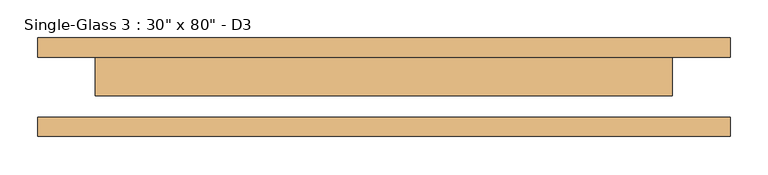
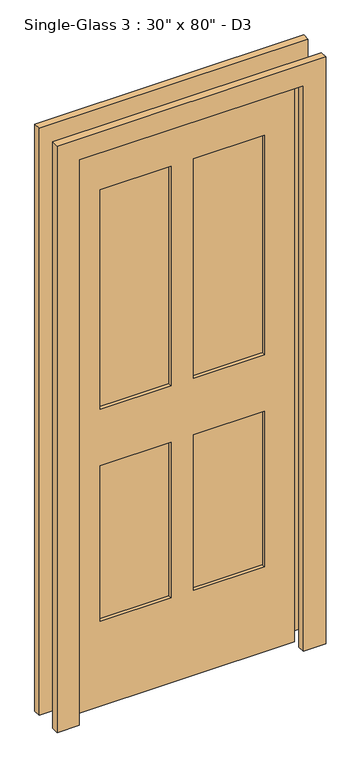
"""IFC4 building model written with IfcOpenShell, lengths in millimetres: door geometry."""

from ifc_helpers import new_model, si_unit, frame, origin, place, context, project, spatial, polyline, outline, extrude, source, transform, mapped, element, save


def door_ea126e43(model_context):
    return source(origin(), model_context, "Body", "SweptSolid", [
        extrude(outline(polyline([(2108.2, -457.2), (0.0, -457.2), (0.0, -381.1240165), (2033.3906173, -381.1240165), (2033.3906173, 380.8759835), (0.0, 380.8759835), (0.0, 457.2), (2108.2, 457.2), (2108.2, -457.2)])), frame((0.0, 39.6875, 0.0), z_axis=(0.0, 1.0, 0.0), x_axis=(0.0, 0.0, 1.0)), (0.0, 0.0, 1.0), 25.4),
        extrude(outline(polyline([(2108.2, 457.2), (2108.2, -457.2), (1.3906173, -457.2), (1.3906173, -381.1240165), (2032.0, -381.1240165), (2032.0, 381.0), (0.0, 381.0), (0.0, 457.2), (2108.2, 457.2)])), frame((0.0, -65.0875, 0.0), z_axis=(0.0, 1.0, 0.0), x_axis=(0.0, 0.0, 1.0)), (0.0, 0.0, 1.0), 25.4),
        extrude(outline(polyline([(-37.9166629, 1.5875), (-279.4, 1.5875), (-279.4, 26.9875), (-37.9166629, 26.9875), (-37.9166629, 1.5875)])), frame((0.0, 0.0, 1066.8), z_axis=(0.0, 0.0, 1.0), x_axis=(1.0, 0.0, 0.0)), (0.0, 0.0, 1.0), 787.6046757),
        extrude(outline(polyline([(279.4, 1.5875), (37.4271634, 1.5875), (37.4271634, 26.9875), (279.4, 26.9875), (279.4, 1.5875)])), frame((0.0, 0.0, 1066.8), z_axis=(0.0, 0.0, 1.0), x_axis=(1.0, 0.0, 0.0)), (0.0, 0.0, 1.0), 787.6046757),
        extrude(outline(polyline([(-37.9166629, 1.5875), (-279.4, 1.5875), (-279.4, 26.9875), (-37.9166629, 26.9875), (-37.9166629, 1.5875)])), frame((0.0, 0.0, 305.0046757), z_axis=(0.0, 0.0, 1.0), x_axis=(1.0, 0.0, 0.0)), (0.0, 0.0, 1.0), 558.8),
        extrude(outline(polyline([(279.4, 1.5875), (37.4271634, 1.5875), (37.4271634, 26.9875), (279.4, 26.9875), (279.4, 1.5875)])), frame((0.0, 0.0, 305.0046757), z_axis=(0.0, 0.0, 1.0), x_axis=(1.0, 0.0, 0.0)), (0.0, 0.0, 1.0), 558.5953243),
        extrude(outline(polyline([(2033.3906173, 380.8759835), (2033.3906173, -381.1240165), (1.3906173, -381.1240165), (1.3906173, 380.8759835), (2033.3906173, 380.8759835)]), holes=[polyline([(1855.795293, -38.2240165), (1068.1906173, -38.2240165), (1068.1906173, -278.8511799), (1855.795293, -278.8511799), (1855.795293, -38.2240165)]), polyline([(1855.795293, 279.9488201), (1068.1906173, 279.9488201), (1068.1906173, 37.9759835), (1855.795293, 37.9759835), (1855.795293, 279.9488201)]), polyline([(865.195293, -38.2240165), (306.395293, -38.2240165), (306.395293, -278.8511799), (865.195293, -278.8511799), (865.195293, -38.2240165)]), polyline([(864.9906173, 279.9488201), (306.395293, 279.9488201), (306.395293, 37.9759835), (864.9906173, 37.9759835), (864.9906173, 279.9488201)])]), frame((0.0, -11.1125, 0.0), z_axis=(0.0, 1.0, 0.0), x_axis=(0.0, 0.0, 1.0)), (0.0, 0.0, 1.0), 50.8),
    ])


if __name__ == "__main__":
    model = new_model("IFC4")
    model_context = context("Model", 3, world=origin())
    ifc_project = project(units=[si_unit("LENGTHUNIT", "METRE", prefix="MILLI")], contexts=[model_context])
    site = spatial("IfcSite", under=ifc_project)
    building = spatial("IfcBuilding", under=site)
    placement = place(None, origin())
    door_shape = door_ea126e43(model_context)
    element("IfcDoor", 1, ObjectType="Single-Glass 3 : 30\" x 80\" - D3", at=placement, inside=building, context=model_context, shape_type="MappedRepresentation", body=[
        mapped(door_shape, transform((0.0, 0.0, 0.0), x_axis=(1.0, 0.0, 0.0), y_axis=(0.0, 1.0, 0.0), z_axis=(0.0, 0.0, 1.0))),
    ])
    save(model, "model.ifc")
